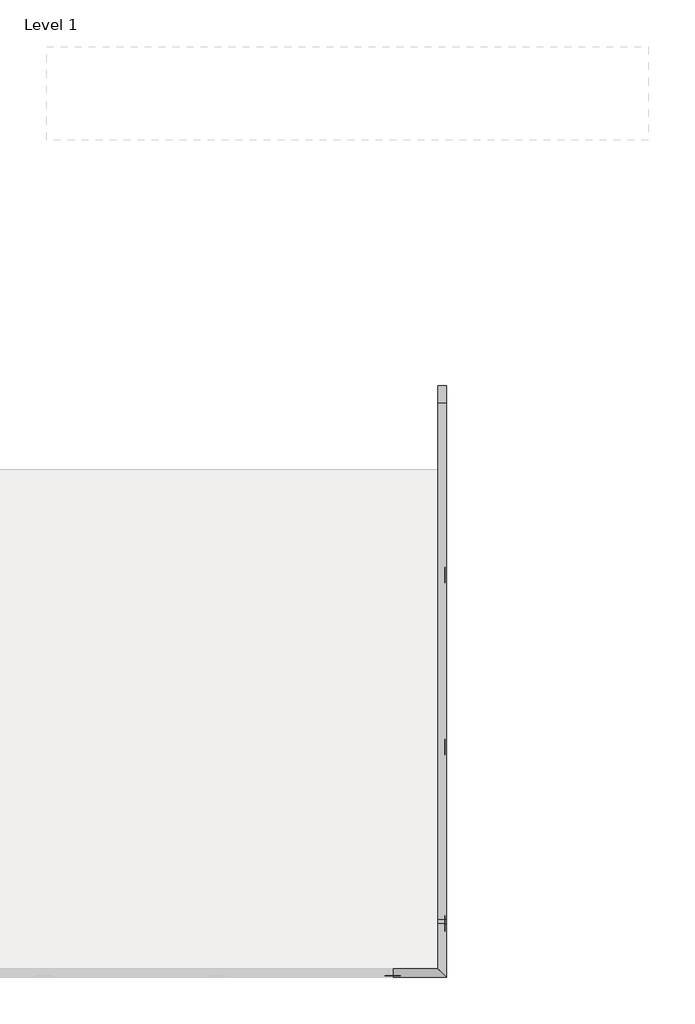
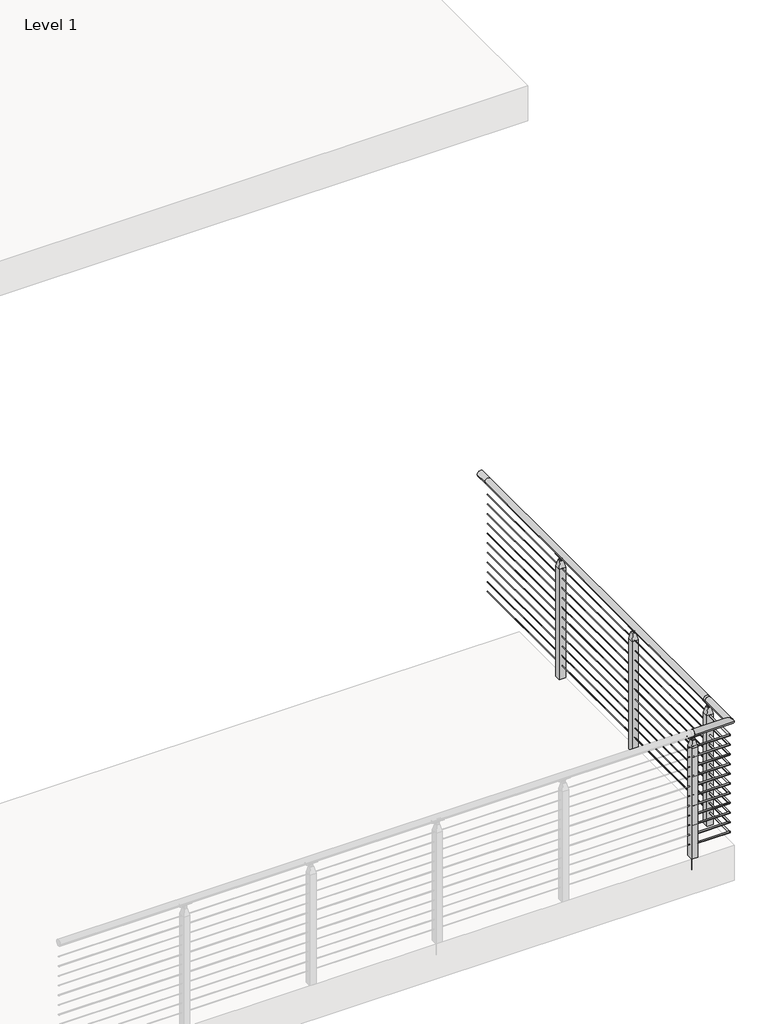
# One storey, part 12 of 26: 2 railings.
"""IFC4 building model written with IfcOpenShell, lengths in millimetres."""

from ifc_helpers import new_model, si_unit, point, frame, frame_2d, origin, place, context, project, spatial, polyline, circle_curve, ellipse_curve, trimmed, segment, composite_curve, outline, extrude, faceted_brep, element, save
from ifc_brep_helpers import plane_surface, cylinder_surface, advanced_brep

model = new_model("IFC4")

# Units and contexts
model_context = context("Model", 3, world=origin())
ifc_project = project(units=[si_unit("LENGTHUNIT", "METRE", prefix="MILLI")], contexts=[model_context])

# Site, building, storey
site = spatial("IfcSite", under=ifc_project)
building = spatial("IfcBuilding", under=site)
storey = spatial("IfcBuildingStorey", under=building, Name="Level 1", Elevation=0.0)

# Railings
placement = place(None, origin())
element("IfcRailing", 1, ObjectType="VIVA-CUBE-Cable-Weld Mount-Corner", at=placement, inside=storey, context=model_context, shape_type="SolidModel", body=[
    advanced_brep(
    [(45028.8886497, -57184.4334719, 1054.1), (45028.8886497, -57133.6334719, 1054.1), (45346.3886497, -57184.4334719, 1054.1), (45295.5886497, -57133.6334719, 1054.1), (45346.3886497, -56866.9334719, 1054.1), (45295.5886497, -56866.9334719, 1054.1)],
    [
        (0, 1, circle_curve(frame((45028.8886497, -57159.0334719, 1054.1), z_axis=(-1.0, 0.0, 0.0), x_axis=(0.0, 1.0, 0.0)), 25.4)),
        (1, 0, circle_curve(frame((45028.8886497, -57159.0334719, 1054.1), z_axis=(-1.0, 0.0, 0.0), x_axis=(0.0, 1.0, 0.0)), 25.4)),
        (0, 2),
        (2, 3, ellipse_curve(frame((45320.9886497, -57159.0334719, 1054.1), z_axis=(-0.7071067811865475, -0.7071067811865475, 0.0), x_axis=(-0.7071067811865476, 0.7071067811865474, 0.0)), 35.9210245, 25.4)),
        (3, 1),
        (3, 2, ellipse_curve(frame((45320.9886497, -57159.0334719, 1054.1), z_axis=(-0.7071067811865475, -0.7071067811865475, 0.0), x_axis=(-0.7071067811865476, 0.7071067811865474, 0.0)), 35.9210245, 25.4)),
        (4, 5, circle_curve(frame((45320.9886497, -56866.9334719, 1054.1), z_axis=(0.0, 1.0, 0.0), x_axis=(-1.0, 0.0, 0.0)), 25.4)),
        (5, 4, circle_curve(frame((45320.9886497, -56866.9334719, 1054.1), z_axis=(0.0, 1.0, 0.0), x_axis=(-1.0, 0.0, 0.0)), 25.4)),
        (2, 4),
        (5, 3),
    ],
    [
        plane_surface(frame((45028.8886497, -57159.0334719, 1079.5), z_axis=(-1.0, 0.0, 0.0), x_axis=(0.0, 1.0, 0.0))),
        cylinder_surface(frame((45028.8886497, -57159.0334719, 1054.1), z_axis=(-1.0, 0.0, 0.0), x_axis=(0.0, 1.0, 0.0)), 25.4),
        plane_surface(frame((45320.9886497, -56866.9334719, 1079.5), z_axis=(0.0, 1.0, 0.0), x_axis=(0.0, 0.0, 1.0))),
        cylinder_surface(frame((45320.9886497, -57159.0334719, 1054.1), z_axis=(0.0, -1.0, 0.0), x_axis=(-1.0, 0.0, 0.0)), 25.4),
    ],
    [
        (0, [[1, 2]]),
        (1, [[-1, 3, 4, 5]]),
        (1, [[-2, -5, 6, -3]]),
        (2, [[7, 8]]),
        (3, [[-4, 9, -8, 10]]),
        (3, [[-6, -10, -7, -9]]),
    ],
),
    advanced_brep(
    [(45028.8886497, -57152.6834719, 933.45), (45028.8886497, -57165.3834719, 933.45), (45314.6386497, -57152.6834719, 933.45), (45327.3386497, -57165.3834719, 933.45), (45314.6386497, -56866.9334719, 933.45), (45327.3386497, -56866.9334719, 933.45)],
    [
        (0, 1, circle_curve(frame((45028.8886497, -57159.0334719, 933.45), z_axis=(-1.0, 0.0, 0.0), x_axis=(0.0, -1.0, 0.0)), 6.35)),
        (1, 0, circle_curve(frame((45028.8886497, -57159.0334719, 933.45), z_axis=(-1.0, 0.0, 0.0), x_axis=(0.0, -1.0, 0.0)), 6.35)),
        (0, 2),
        (2, 3, ellipse_curve(frame((45320.9886497, -57159.0334719, 933.45), z_axis=(-0.7071067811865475, -0.7071067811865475, 0.0), x_axis=(-0.7071067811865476, 0.7071067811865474, 0.0)), 8.9802561, 6.35)),
        (3, 1),
        (3, 2, ellipse_curve(frame((45320.9886497, -57159.0334719, 933.45), z_axis=(-0.7071067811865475, -0.7071067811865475, 0.0), x_axis=(-0.7071067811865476, 0.7071067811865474, 0.0)), 8.9802561, 6.35)),
        (4, 5, circle_curve(frame((45320.9886497, -56866.9334719, 933.45), z_axis=(0.0, 1.0, 0.0), x_axis=(1.0, 0.0, 0.0)), 6.35)),
        (5, 4, circle_curve(frame((45320.9886497, -56866.9334719, 933.45), z_axis=(0.0, 1.0, 0.0), x_axis=(1.0, 0.0, 0.0)), 6.35)),
        (2, 4),
        (5, 3),
    ],
    [
        plane_surface(frame((45028.8886497, -57159.0334719, 939.8), z_axis=(-1.0, 0.0, 0.0), x_axis=(0.0, 1.0, 0.0))),
        cylinder_surface(frame((45028.8886497, -57159.0334719, 933.45), z_axis=(-1.0, 0.0, 0.0), x_axis=(0.0, -1.0, 0.0)), 6.35),
        plane_surface(frame((45320.9886497, -56866.9334719, 939.8), z_axis=(0.0, 1.0, 0.0), x_axis=(0.0, 0.0, 1.0))),
        cylinder_surface(frame((45320.9886497, -57159.0334719, 933.45), z_axis=(0.0, -1.0, 0.0), x_axis=(1.0, 0.0, 0.0)), 6.35),
    ],
    [
        (0, [[1, 2]]),
        (1, [[-1, 3, 4, 5]]),
        (1, [[-2, -5, 6, -3]]),
        (2, [[7, 8]]),
        (3, [[-4, 9, -8, 10]]),
        (3, [[-6, -10, -7, -9]]),
    ],
),
    advanced_brep(
    [(45028.8886497, -57152.6834719, 850.9), (45028.8886497, -57165.3834719, 850.9), (45314.6386497, -57152.6834719, 850.9), (45327.3386497, -57165.3834719, 850.9), (45314.6386497, -56866.9334719, 850.9), (45327.3386497, -56866.9334719, 850.9)],
    [
        (0, 1, circle_curve(frame((45028.8886497, -57159.0334719, 850.9), z_axis=(-1.0, 0.0, 0.0), x_axis=(0.0, -1.0, 0.0)), 6.35)),
        (1, 0, circle_curve(frame((45028.8886497, -57159.0334719, 850.9), z_axis=(-1.0, 0.0, 0.0), x_axis=(0.0, -1.0, 0.0)), 6.35)),
        (0, 2),
        (2, 3, ellipse_curve(frame((45320.9886497, -57159.0334719, 850.9), z_axis=(-0.7071067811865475, -0.7071067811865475, 0.0), x_axis=(-0.7071067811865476, 0.7071067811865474, 0.0)), 8.9802561, 6.35)),
        (3, 1),
        (3, 2, ellipse_curve(frame((45320.9886497, -57159.0334719, 850.9), z_axis=(-0.7071067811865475, -0.7071067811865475, 0.0), x_axis=(-0.7071067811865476, 0.7071067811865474, 0.0)), 8.9802561, 6.35)),
        (4, 5, circle_curve(frame((45320.9886497, -56866.9334719, 850.9), z_axis=(0.0, 1.0, 0.0), x_axis=(1.0, 0.0, 0.0)), 6.35)),
        (5, 4, circle_curve(frame((45320.9886497, -56866.9334719, 850.9), z_axis=(0.0, 1.0, 0.0), x_axis=(1.0, 0.0, 0.0)), 6.35)),
        (2, 4),
        (5, 3),
    ],
    [
        plane_surface(frame((45028.8886497, -57159.0334719, 857.25), z_axis=(-1.0, 0.0, 0.0), x_axis=(0.0, 1.0, 0.0))),
        cylinder_surface(frame((45028.8886497, -57159.0334719, 850.9), z_axis=(-1.0, 0.0, 0.0), x_axis=(0.0, -1.0, 0.0)), 6.35),
        plane_surface(frame((45320.9886497, -56866.9334719, 857.25), z_axis=(0.0, 1.0, 0.0), x_axis=(0.0, 0.0, 1.0))),
        cylinder_surface(frame((45320.9886497, -57159.0334719, 850.9), z_axis=(0.0, -1.0, 0.0), x_axis=(1.0, 0.0, 0.0)), 6.35),
    ],
    [
        (0, [[1, 2]]),
        (1, [[-1, 3, 4, 5]]),
        (1, [[-2, -5, 6, -3]]),
        (2, [[7, 8]]),
        (3, [[-4, 9, -8, 10]]),
        (3, [[-6, -10, -7, -9]]),
    ],
),
    advanced_brep(
    [(45028.8886497, -57152.6834719, 768.35), (45028.8886497, -57165.3834719, 768.35), (45314.6386497, -57152.6834719, 768.35), (45327.3386497, -57165.3834719, 768.35), (45314.6386497, -56866.9334719, 768.35), (45327.3386497, -56866.9334719, 768.35)],
    [
        (0, 1, circle_curve(frame((45028.8886497, -57159.0334719, 768.35), z_axis=(-1.0, 0.0, 0.0), x_axis=(0.0, -1.0, 0.0)), 6.35)),
        (1, 0, circle_curve(frame((45028.8886497, -57159.0334719, 768.35), z_axis=(-1.0, 0.0, 0.0), x_axis=(0.0, -1.0, 0.0)), 6.35)),
        (0, 2),
        (2, 3, ellipse_curve(frame((45320.9886497, -57159.0334719, 768.35), z_axis=(-0.7071067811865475, -0.7071067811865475, 0.0), x_axis=(-0.7071067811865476, 0.7071067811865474, 0.0)), 8.9802561, 6.35)),
        (3, 1),
        (3, 2, ellipse_curve(frame((45320.9886497, -57159.0334719, 768.35), z_axis=(-0.7071067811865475, -0.7071067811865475, 0.0), x_axis=(-0.7071067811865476, 0.7071067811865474, 0.0)), 8.9802561, 6.35)),
        (4, 5, circle_curve(frame((45320.9886497, -56866.9334719, 768.35), z_axis=(0.0, 1.0, 0.0), x_axis=(1.0, 0.0, 0.0)), 6.35)),
        (5, 4, circle_curve(frame((45320.9886497, -56866.9334719, 768.35), z_axis=(0.0, 1.0, 0.0), x_axis=(1.0, 0.0, 0.0)), 6.35)),
        (2, 4),
        (5, 3),
    ],
    [
        plane_surface(frame((45028.8886497, -57159.0334719, 774.7), z_axis=(-1.0, 0.0, 0.0), x_axis=(0.0, 1.0, 0.0))),
        cylinder_surface(frame((45028.8886497, -57159.0334719, 768.35), z_axis=(-1.0, 0.0, 0.0), x_axis=(0.0, -1.0, 0.0)), 6.35),
        plane_surface(frame((45320.9886497, -56866.9334719, 774.7), z_axis=(0.0, 1.0, 0.0), x_axis=(0.0, 0.0, 1.0))),
        cylinder_surface(frame((45320.9886497, -57159.0334719, 768.35), z_axis=(0.0, -1.0, 0.0), x_axis=(1.0, 0.0, 0.0)), 6.35),
    ],
    [
        (0, [[1, 2]]),
        (1, [[-1, 3, 4, 5]]),
        (1, [[-2, -5, 6, -3]]),
        (2, [[7, 8]]),
        (3, [[-4, 9, -8, 10]]),
        (3, [[-6, -10, -7, -9]]),
    ],
),
    advanced_brep(
    [(45028.8886497, -57152.6834719, 685.8), (45028.8886497, -57165.3834719, 685.8), (45314.6386497, -57152.6834719, 685.8), (45327.3386497, -57165.3834719, 685.8), (45314.6386497, -56866.9334719, 685.8), (45327.3386497, -56866.9334719, 685.8)],
    [
        (0, 1, circle_curve(frame((45028.8886497, -57159.0334719, 685.8), z_axis=(-1.0, 0.0, 0.0), x_axis=(0.0, -1.0, 0.0)), 6.35)),
        (1, 0, circle_curve(frame((45028.8886497, -57159.0334719, 685.8), z_axis=(-1.0, 0.0, 0.0), x_axis=(0.0, -1.0, 0.0)), 6.35)),
        (0, 2),
        (2, 3, ellipse_curve(frame((45320.9886497, -57159.0334719, 685.8), z_axis=(-0.7071067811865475, -0.7071067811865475, 0.0), x_axis=(-0.7071067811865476, 0.7071067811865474, 0.0)), 8.9802561, 6.35)),
        (3, 1),
        (3, 2, ellipse_curve(frame((45320.9886497, -57159.0334719, 685.8), z_axis=(-0.7071067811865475, -0.7071067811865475, 0.0), x_axis=(-0.7071067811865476, 0.7071067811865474, 0.0)), 8.9802561, 6.35)),
        (4, 5, circle_curve(frame((45320.9886497, -56866.9334719, 685.8), z_axis=(0.0, 1.0, 0.0), x_axis=(1.0, 0.0, 0.0)), 6.35)),
        (5, 4, circle_curve(frame((45320.9886497, -56866.9334719, 685.8), z_axis=(0.0, 1.0, 0.0), x_axis=(1.0, 0.0, 0.0)), 6.35)),
        (2, 4),
        (5, 3),
    ],
    [
        plane_surface(frame((45028.8886497, -57159.0334719, 692.15), z_axis=(-1.0, 0.0, 0.0), x_axis=(0.0, 1.0, 0.0))),
        cylinder_surface(frame((45028.8886497, -57159.0334719, 685.8), z_axis=(-1.0, 0.0, 0.0), x_axis=(0.0, -1.0, 0.0)), 6.35),
        plane_surface(frame((45320.9886497, -56866.9334719, 692.15), z_axis=(0.0, 1.0, 0.0), x_axis=(0.0, 0.0, 1.0))),
        cylinder_surface(frame((45320.9886497, -57159.0334719, 685.8), z_axis=(0.0, -1.0, 0.0), x_axis=(1.0, 0.0, 0.0)), 6.35),
    ],
    [
        (0, [[1, 2]]),
        (1, [[-1, 3, 4, 5]]),
        (1, [[-2, -5, 6, -3]]),
        (2, [[7, 8]]),
        (3, [[-4, 9, -8, 10]]),
        (3, [[-6, -10, -7, -9]]),
    ],
),
    advanced_brep(
    [(45028.8886497, -57152.6834719, 603.25), (45028.8886497, -57165.3834719, 603.25), (45314.6386497, -57152.6834719, 603.25), (45327.3386497, -57165.3834719, 603.25), (45314.6386497, -56866.9334719, 603.25), (45327.3386497, -56866.9334719, 603.25)],
    [
        (0, 1, circle_curve(frame((45028.8886497, -57159.0334719, 603.25), z_axis=(-1.0, 0.0, 0.0), x_axis=(0.0, -1.0, 0.0)), 6.35)),
        (1, 0, circle_curve(frame((45028.8886497, -57159.0334719, 603.25), z_axis=(-1.0, 0.0, 0.0), x_axis=(0.0, -1.0, 0.0)), 6.35)),
        (0, 2),
        (2, 3, ellipse_curve(frame((45320.9886497, -57159.0334719, 603.25), z_axis=(-0.7071067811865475, -0.7071067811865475, 0.0), x_axis=(-0.7071067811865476, 0.7071067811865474, 0.0)), 8.9802561, 6.35)),
        (3, 1),
        (3, 2, ellipse_curve(frame((45320.9886497, -57159.0334719, 603.25), z_axis=(-0.7071067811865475, -0.7071067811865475, 0.0), x_axis=(-0.7071067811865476, 0.7071067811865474, 0.0)), 8.9802561, 6.35)),
        (4, 5, circle_curve(frame((45320.9886497, -56866.9334719, 603.25), z_axis=(0.0, 1.0, 0.0), x_axis=(1.0, 0.0, 0.0)), 6.35)),
        (5, 4, circle_curve(frame((45320.9886497, -56866.9334719, 603.25), z_axis=(0.0, 1.0, 0.0), x_axis=(1.0, 0.0, 0.0)), 6.35)),
        (2, 4),
        (5, 3),
    ],
    [
        plane_surface(frame((45028.8886497, -57159.0334719, 609.6), z_axis=(-1.0, 0.0, 0.0), x_axis=(0.0, 1.0, 0.0))),
        cylinder_surface(frame((45028.8886497, -57159.0334719, 603.25), z_axis=(-1.0, 0.0, 0.0), x_axis=(0.0, -1.0, 0.0)), 6.35),
        plane_surface(frame((45320.9886497, -56866.9334719, 609.6), z_axis=(0.0, 1.0, 0.0), x_axis=(0.0, 0.0, 1.0))),
        cylinder_surface(frame((45320.9886497, -57159.0334719, 603.25), z_axis=(0.0, -1.0, 0.0), x_axis=(1.0, 0.0, 0.0)), 6.35),
    ],
    [
        (0, [[1, 2]]),
        (1, [[-1, 3, 4, 5]]),
        (1, [[-2, -5, 6, -3]]),
        (2, [[7, 8]]),
        (3, [[-4, 9, -8, 10]]),
        (3, [[-6, -10, -7, -9]]),
    ],
),
    advanced_brep(
    [(45028.8886497, -57152.6834719, 520.7), (45028.8886497, -57165.3834719, 520.7), (45314.6386497, -57152.6834719, 520.7), (45327.3386497, -57165.3834719, 520.7), (45314.6386497, -56866.9334719, 520.7), (45327.3386497, -56866.9334719, 520.7)],
    [
        (0, 1, circle_curve(frame((45028.8886497, -57159.0334719, 520.7), z_axis=(-1.0, 0.0, 0.0), x_axis=(0.0, -1.0, 0.0)), 6.35)),
        (1, 0, circle_curve(frame((45028.8886497, -57159.0334719, 520.7), z_axis=(-1.0, 0.0, 0.0), x_axis=(0.0, -1.0, 0.0)), 6.35)),
        (0, 2),
        (2, 3, ellipse_curve(frame((45320.9886497, -57159.0334719, 520.7), z_axis=(-0.7071067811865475, -0.7071067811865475, 0.0), x_axis=(-0.7071067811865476, 0.7071067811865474, 0.0)), 8.9802561, 6.35)),
        (3, 1),
        (3, 2, ellipse_curve(frame((45320.9886497, -57159.0334719, 520.7), z_axis=(-0.7071067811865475, -0.7071067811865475, 0.0), x_axis=(-0.7071067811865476, 0.7071067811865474, 0.0)), 8.9802561, 6.35)),
        (4, 5, circle_curve(frame((45320.9886497, -56866.9334719, 520.7), z_axis=(0.0, 1.0, 0.0), x_axis=(1.0, 0.0, 0.0)), 6.35)),
        (5, 4, circle_curve(frame((45320.9886497, -56866.9334719, 520.7), z_axis=(0.0, 1.0, 0.0), x_axis=(1.0, 0.0, 0.0)), 6.35)),
        (2, 4),
        (5, 3),
    ],
    [
        plane_surface(frame((45028.8886497, -57159.0334719, 527.05), z_axis=(-1.0, 0.0, 0.0), x_axis=(0.0, 1.0, 0.0))),
        cylinder_surface(frame((45028.8886497, -57159.0334719, 520.7), z_axis=(-1.0, 0.0, 0.0), x_axis=(0.0, -1.0, 0.0)), 6.35),
        plane_surface(frame((45320.9886497, -56866.9334719, 527.05), z_axis=(0.0, 1.0, 0.0), x_axis=(0.0, 0.0, 1.0))),
        cylinder_surface(frame((45320.9886497, -57159.0334719, 520.7), z_axis=(0.0, -1.0, 0.0), x_axis=(1.0, 0.0, 0.0)), 6.35),
    ],
    [
        (0, [[1, 2]]),
        (1, [[-1, 3, 4, 5]]),
        (1, [[-2, -5, 6, -3]]),
        (2, [[7, 8]]),
        (3, [[-4, 9, -8, 10]]),
        (3, [[-6, -10, -7, -9]]),
    ],
),
    advanced_brep(
    [(45028.8886497, -57152.6834719, 438.15), (45028.8886497, -57165.3834719, 438.15), (45314.6386497, -57152.6834719, 438.15), (45327.3386497, -57165.3834719, 438.15), (45314.6386497, -56866.9334719, 438.15), (45327.3386497, -56866.9334719, 438.15)],
    [
        (0, 1, circle_curve(frame((45028.8886497, -57159.0334719, 438.15), z_axis=(-1.0, 0.0, 0.0), x_axis=(0.0, -1.0, 0.0)), 6.35)),
        (1, 0, circle_curve(frame((45028.8886497, -57159.0334719, 438.15), z_axis=(-1.0, 0.0, 0.0), x_axis=(0.0, -1.0, 0.0)), 6.35)),
        (0, 2),
        (2, 3, ellipse_curve(frame((45320.9886497, -57159.0334719, 438.15), z_axis=(-0.7071067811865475, -0.7071067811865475, 0.0), x_axis=(-0.7071067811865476, 0.7071067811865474, 0.0)), 8.9802561, 6.35)),
        (3, 1),
        (3, 2, ellipse_curve(frame((45320.9886497, -57159.0334719, 438.15), z_axis=(-0.7071067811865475, -0.7071067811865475, 0.0), x_axis=(-0.7071067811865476, 0.7071067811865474, 0.0)), 8.9802561, 6.35)),
        (4, 5, circle_curve(frame((45320.9886497, -56866.9334719, 438.15), z_axis=(0.0, 1.0, 0.0), x_axis=(1.0, 0.0, 0.0)), 6.35)),
        (5, 4, circle_curve(frame((45320.9886497, -56866.9334719, 438.15), z_axis=(0.0, 1.0, 0.0), x_axis=(1.0, 0.0, 0.0)), 6.35)),
        (2, 4),
        (5, 3),
    ],
    [
        plane_surface(frame((45028.8886497, -57159.0334719, 444.5), z_axis=(-1.0, 0.0, 0.0), x_axis=(0.0, 1.0, 0.0))),
        cylinder_surface(frame((45028.8886497, -57159.0334719, 438.15), z_axis=(-1.0, 0.0, 0.0), x_axis=(0.0, -1.0, 0.0)), 6.35),
        plane_surface(frame((45320.9886497, -56866.9334719, 444.5), z_axis=(0.0, 1.0, 0.0), x_axis=(0.0, 0.0, 1.0))),
        cylinder_surface(frame((45320.9886497, -57159.0334719, 438.15), z_axis=(0.0, -1.0, 0.0), x_axis=(1.0, 0.0, 0.0)), 6.35),
    ],
    [
        (0, [[1, 2]]),
        (1, [[-1, 3, 4, 5]]),
        (1, [[-2, -5, 6, -3]]),
        (2, [[7, 8]]),
        (3, [[-4, 9, -8, 10]]),
        (3, [[-6, -10, -7, -9]]),
    ],
),
    advanced_brep(
    [(45028.8886497, -57152.6834719, 355.6), (45028.8886497, -57165.3834719, 355.6), (45314.6386497, -57152.6834719, 355.6), (45327.3386497, -57165.3834719, 355.6), (45314.6386497, -56866.9334719, 355.6), (45327.3386497, -56866.9334719, 355.6)],
    [
        (0, 1, circle_curve(frame((45028.8886497, -57159.0334719, 355.6), z_axis=(-1.0, 0.0, 0.0), x_axis=(0.0, -1.0, 0.0)), 6.35)),
        (1, 0, circle_curve(frame((45028.8886497, -57159.0334719, 355.6), z_axis=(-1.0, 0.0, 0.0), x_axis=(0.0, -1.0, 0.0)), 6.35)),
        (0, 2),
        (2, 3, ellipse_curve(frame((45320.9886497, -57159.0334719, 355.6), z_axis=(-0.7071067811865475, -0.7071067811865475, 0.0), x_axis=(-0.7071067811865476, 0.7071067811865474, 0.0)), 8.9802561, 6.35)),
        (3, 1),
        (3, 2, ellipse_curve(frame((45320.9886497, -57159.0334719, 355.6), z_axis=(-0.7071067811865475, -0.7071067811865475, 0.0), x_axis=(-0.7071067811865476, 0.7071067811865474, 0.0)), 8.9802561, 6.35)),
        (4, 5, circle_curve(frame((45320.9886497, -56866.9334719, 355.6), z_axis=(0.0, 1.0, 0.0), x_axis=(1.0, 0.0, 0.0)), 6.35)),
        (5, 4, circle_curve(frame((45320.9886497, -56866.9334719, 355.6), z_axis=(0.0, 1.0, 0.0), x_axis=(1.0, 0.0, 0.0)), 6.35)),
        (2, 4),
        (5, 3),
    ],
    [
        plane_surface(frame((45028.8886497, -57159.0334719, 361.95), z_axis=(-1.0, 0.0, 0.0), x_axis=(0.0, 1.0, 0.0))),
        cylinder_surface(frame((45028.8886497, -57159.0334719, 355.6), z_axis=(-1.0, 0.0, 0.0), x_axis=(0.0, -1.0, 0.0)), 6.35),
        plane_surface(frame((45320.9886497, -56866.9334719, 361.95), z_axis=(0.0, 1.0, 0.0), x_axis=(0.0, 0.0, 1.0))),
        cylinder_surface(frame((45320.9886497, -57159.0334719, 355.6), z_axis=(0.0, -1.0, 0.0), x_axis=(1.0, 0.0, 0.0)), 6.35),
    ],
    [
        (0, [[1, 2]]),
        (1, [[-1, 3, 4, 5]]),
        (1, [[-2, -5, 6, -3]]),
        (2, [[7, 8]]),
        (3, [[-4, 9, -8, 10]]),
        (3, [[-6, -10, -7, -9]]),
    ],
),
    advanced_brep(
    [(45028.8886497, -57152.6834719, 273.05), (45028.8886497, -57165.3834719, 273.05), (45314.6386497, -57152.6834719, 273.05), (45327.3386497, -57165.3834719, 273.05), (45314.6386497, -56866.9334719, 273.05), (45327.3386497, -56866.9334719, 273.05)],
    [
        (0, 1, circle_curve(frame((45028.8886497, -57159.0334719, 273.05), z_axis=(-1.0, 0.0, 0.0), x_axis=(0.0, -1.0, 0.0)), 6.35)),
        (1, 0, circle_curve(frame((45028.8886497, -57159.0334719, 273.05), z_axis=(-1.0, 0.0, 0.0), x_axis=(0.0, -1.0, 0.0)), 6.35)),
        (0, 2),
        (2, 3, ellipse_curve(frame((45320.9886497, -57159.0334719, 273.05), z_axis=(-0.7071067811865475, -0.7071067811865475, 0.0), x_axis=(-0.7071067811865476, 0.7071067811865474, 0.0)), 8.9802561, 6.35)),
        (3, 1),
        (3, 2, ellipse_curve(frame((45320.9886497, -57159.0334719, 273.05), z_axis=(-0.7071067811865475, -0.7071067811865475, 0.0), x_axis=(-0.7071067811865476, 0.7071067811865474, 0.0)), 8.9802561, 6.35)),
        (4, 5, circle_curve(frame((45320.9886497, -56866.9334719, 273.05), z_axis=(0.0, 1.0, 0.0), x_axis=(1.0, 0.0, 0.0)), 6.35)),
        (5, 4, circle_curve(frame((45320.9886497, -56866.9334719, 273.05), z_axis=(0.0, 1.0, 0.0), x_axis=(1.0, 0.0, 0.0)), 6.35)),
        (2, 4),
        (5, 3),
    ],
    [
        plane_surface(frame((45028.8886497, -57159.0334719, 279.4), z_axis=(-1.0, 0.0, 0.0), x_axis=(0.0, 1.0, 0.0))),
        cylinder_surface(frame((45028.8886497, -57159.0334719, 273.05), z_axis=(-1.0, 0.0, 0.0), x_axis=(0.0, -1.0, 0.0)), 6.35),
        plane_surface(frame((45320.9886497, -56866.9334719, 279.4), z_axis=(0.0, 1.0, 0.0), x_axis=(0.0, 0.0, 1.0))),
        cylinder_surface(frame((45320.9886497, -57159.0334719, 273.05), z_axis=(0.0, -1.0, 0.0), x_axis=(1.0, 0.0, 0.0)), 6.35),
    ],
    [
        (0, [[1, 2]]),
        (1, [[-1, 3, 4, 5]]),
        (1, [[-2, -5, 6, -3]]),
        (2, [[7, 8]]),
        (3, [[-4, 9, -8, 10]]),
        (3, [[-6, -10, -7, -9]]),
    ],
),
    advanced_brep(
    [(45028.8886497, -57152.6834719, 190.5), (45028.8886497, -57165.3834719, 190.5), (45314.6386497, -57152.6834719, 190.5), (45327.3386497, -57165.3834719, 190.5), (45314.6386497, -56866.9334719, 190.5), (45327.3386497, -56866.9334719, 190.5)],
    [
        (0, 1, circle_curve(frame((45028.8886497, -57159.0334719, 190.5), z_axis=(-1.0, 0.0, 0.0), x_axis=(0.0, -1.0, 0.0)), 6.35)),
        (1, 0, circle_curve(frame((45028.8886497, -57159.0334719, 190.5), z_axis=(-1.0, 0.0, 0.0), x_axis=(0.0, -1.0, 0.0)), 6.35)),
        (0, 2),
        (2, 3, ellipse_curve(frame((45320.9886497, -57159.0334719, 190.5), z_axis=(-0.7071067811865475, -0.7071067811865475, 0.0), x_axis=(-0.7071067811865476, 0.7071067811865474, 0.0)), 8.9802561, 6.35)),
        (3, 1),
        (3, 2, ellipse_curve(frame((45320.9886497, -57159.0334719, 190.5), z_axis=(-0.7071067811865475, -0.7071067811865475, 0.0), x_axis=(-0.7071067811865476, 0.7071067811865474, 0.0)), 8.9802561, 6.35)),
        (4, 5, circle_curve(frame((45320.9886497, -56866.9334719, 190.5), z_axis=(0.0, 1.0, 0.0), x_axis=(1.0, 0.0, 0.0)), 6.35)),
        (5, 4, circle_curve(frame((45320.9886497, -56866.9334719, 190.5), z_axis=(0.0, 1.0, 0.0), x_axis=(1.0, 0.0, 0.0)), 6.35)),
        (2, 4),
        (5, 3),
    ],
    [
        plane_surface(frame((45028.8886497, -57159.0334719, 196.85), z_axis=(-1.0, 0.0, 0.0), x_axis=(0.0, 1.0, 0.0))),
        cylinder_surface(frame((45028.8886497, -57159.0334719, 190.5), z_axis=(-1.0, 0.0, 0.0), x_axis=(0.0, -1.0, 0.0)), 6.35),
        plane_surface(frame((45320.9886497, -56866.9334719, 196.85), z_axis=(0.0, 1.0, 0.0), x_axis=(0.0, 0.0, 1.0))),
        cylinder_surface(frame((45320.9886497, -57159.0334719, 190.5), z_axis=(0.0, -1.0, 0.0), x_axis=(1.0, 0.0, 0.0)), 6.35),
    ],
    [
        (0, [[1, 2]]),
        (1, [[-1, 3, 4, 5]]),
        (1, [[-2, -5, 6, -3]]),
        (2, [[7, 8]]),
        (3, [[-4, 9, -8, 10]]),
        (3, [[-6, -10, -7, -9]]),
    ],
),
    advanced_brep(
    [(45028.8886497, -57152.6834719, 107.95), (45028.8886497, -57165.3834719, 107.95), (45314.6386497, -57152.6834719, 107.95), (45327.3386497, -57165.3834719, 107.95), (45314.6386497, -56866.9334719, 107.95), (45327.3386497, -56866.9334719, 107.95)],
    [
        (0, 1, circle_curve(frame((45028.8886497, -57159.0334719, 107.95), z_axis=(-1.0, 0.0, 0.0), x_axis=(0.0, -1.0, 0.0)), 6.35)),
        (1, 0, circle_curve(frame((45028.8886497, -57159.0334719, 107.95), z_axis=(-1.0, 0.0, 0.0), x_axis=(0.0, -1.0, 0.0)), 6.35)),
        (0, 2),
        (2, 3, ellipse_curve(frame((45320.9886497, -57159.0334719, 107.95), z_axis=(-0.7071067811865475, -0.7071067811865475, 0.0), x_axis=(-0.7071067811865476, 0.7071067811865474, 0.0)), 8.9802561, 6.35)),
        (3, 1),
        (3, 2, ellipse_curve(frame((45320.9886497, -57159.0334719, 107.95), z_axis=(-0.7071067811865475, -0.7071067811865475, 0.0), x_axis=(-0.7071067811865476, 0.7071067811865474, 0.0)), 8.9802561, 6.35)),
        (4, 5, circle_curve(frame((45320.9886497, -56866.9334719, 107.95), z_axis=(0.0, 1.0, 0.0), x_axis=(1.0, 0.0, 0.0)), 6.35)),
        (5, 4, circle_curve(frame((45320.9886497, -56866.9334719, 107.95), z_axis=(0.0, 1.0, 0.0), x_axis=(1.0, 0.0, 0.0)), 6.35)),
        (2, 4),
        (5, 3),
    ],
    [
        plane_surface(frame((45028.8886497, -57159.0334719, 114.3), z_axis=(-1.0, 0.0, 0.0), x_axis=(0.0, 1.0, 0.0))),
        cylinder_surface(frame((45028.8886497, -57159.0334719, 107.95), z_axis=(-1.0, 0.0, 0.0), x_axis=(0.0, -1.0, 0.0)), 6.35),
        plane_surface(frame((45320.9886497, -56866.9334719, 114.3), z_axis=(0.0, 1.0, 0.0), x_axis=(0.0, 0.0, 1.0))),
        cylinder_surface(frame((45320.9886497, -57159.0334719, 107.95), z_axis=(0.0, -1.0, 0.0), x_axis=(1.0, 0.0, 0.0)), 6.35),
    ],
    [
        (0, [[1, 2]]),
        (1, [[-1, 3, 4, 5]]),
        (1, [[-2, -5, 6, -3]]),
        (2, [[7, 8]]),
        (3, [[-4, 9, -8, 10]]),
        (3, [[-6, -10, -7, -9]]),
    ],
),
    faceted_brep([(45308.2886497, -56853.8365969, 997.2902749), (45308.2886497, -56879.2365969, 997.2902749), (45317.0198997, -56879.2365969, 997.2902749), (45317.0198997, -56853.8365969, 997.2902749), (45333.6886497, -56879.2365969, 997.2902749), (45333.6886497, -56853.8365969, 997.2902749), (45324.9573997, -56853.8365969, 997.2902749), (45324.9573997, -56879.2365969, 997.2902749), (45295.5886497, -56841.1365969, 941.1347854), (45346.3886497, -56841.1365969, 941.1347854), (45295.5886497, -56891.9365969, 941.1347854), (45346.3886497, -56891.9365969, 941.1347854), (45295.5886497, -56841.1365969, -88.9), (45346.3886497, -56841.1365969, -88.9), (45346.3886497, -56891.9365969, -88.9), (45295.5886497, -56891.9365969, -88.9), (45324.9573997, -56879.2365969, 1009.3306013), (45324.9573997, -56853.8365969, 1009.3306013), (45317.0198997, -56853.8365969, 1009.3306013), (45317.0198997, -56879.2365969, 1009.3306013)], [[[0, 1, 2, 3]], [[4, 5, 6, 7]], [[8, 0, 3, 6, 5, 9]], [[1, 0, 8, 10]], [[1, 10, 11, 4, 7, 2]], [[5, 4, 11, 9]], [[12, 13, 14, 15]], [[12, 15, 10, 8]], [[15, 14, 11, 10]], [[14, 13, 9, 11]], [[13, 12, 8, 9]], [[16, 17, 18, 19]], [[17, 16, 7, 6]], [[18, 17, 6, 3]], [[19, 18, 3, 2]], [[16, 19, 2, 7]]]),
    extrude(outline(composite_curve([segment(trimmed(circle_curve(frame_2d((1054.1433184, 45320.8919213)), 25.4345159), [point((1032.0284941, 45333.4557242))], [point((1031.9335733, 45308.4966876))], True, "CARTESIAN"), True, "CONTINUOUS"), segment(trimmed(circle_curve(frame_2d((1029.4310885, 45307.2520344)), 2.7949225), [point((1031.9335733, 45308.4966876))], [point((1027.0585031, 45305.7747294))], False, "CARTESIAN"), True, "CONTINUOUS"), segment(trimmed(circle_curve(frame_2d((1054.905945, 45321.0253844)), 31.75), [point((1027.0585031, 45305.7747294))], [point((1027.6392616, 45337.2916216))], False, "CARTESIAN"), True, "CONTINUOUS"), segment(trimmed(circle_curve(frame_2d((1029.5101807, 45335.0032819)), 2.9558141), [point((1027.6392616, 45337.2916216))], [point((1032.0284941, 45333.4557242))], False, "CARTESIAN"), True, "CONTINUOUS")], self_intersect=False)), frame((0.0, -56911.7739969, 0.0), z_axis=(0.0, 1.0, 0.0), x_axis=(0.0, 0.0, 1.0)), (0.0, 0.0, 1.0), 90.4748),
    extrude(outline(composite_curve([segment(trimmed(circle_curve(frame_2d((-56839.468682, 1009.0006022)), 14.3679149), [point((-56839.468682, 1023.3685171))], [point((-56853.8365969, 1009.0006022))], True, "CARTESIAN"), True, "CONTINUOUS"), segment(trimmed(circle_curve(frame_2d((-56866.5365969, 1009.0006022)), 12.7), [point((-56853.8365969, 1009.0006022))], [point((-56879.2365969, 1009.0006022))], False, "CARTESIAN"), True, "CONTINUOUS"), segment(trimmed(circle_curve(frame_2d((-56893.6045117, 1009.0006022)), 14.3679149), [point((-56879.2365969, 1009.0006022))], [point((-56893.6045117, 1023.3685171))], True, "CARTESIAN"), True, "CONTINUOUS"), segment(polyline([(-56893.6045117, 1023.3685171), (-56839.468682, 1023.3685171)]), True, "CONTINUOUS")], self_intersect=False)), frame((45318.4486497, 0.0, 0.0), z_axis=(1.0, 0.0, 0.0), x_axis=(0.0, 1.0, 0.0)), (0.0, 0.0, 1.0), 5.08),
    faceted_brep([(45041.9855247, -57146.3334719, 997.2902749), (45016.5855247, -57146.3334719, 997.2902749), (45016.5855247, -57155.0647219, 997.2902749), (45041.9855247, -57155.0647219, 997.2902749), (45016.5855247, -57171.7334719, 997.2902749), (45041.9855247, -57171.7334719, 997.2902749), (45041.9855247, -57163.0022219, 997.2902749), (45016.5855247, -57163.0022219, 997.2902749), (45054.6855247, -57133.6334719, 941.1347854), (45054.6855247, -57184.4334719, 941.1347854), (45003.8855247, -57133.6334719, 941.1347854), (45003.8855247, -57184.4334719, 941.1347854), (45054.6855247, -57133.6334719, -88.9), (45054.6855247, -57184.4334719, -88.9), (45003.8855247, -57184.4334719, -88.9), (45003.8855247, -57133.6334719, -88.9), (45016.5855247, -57163.0022219, 1009.3306013), (45041.9855247, -57163.0022219, 1009.3306013), (45041.9855247, -57155.0647219, 1009.3306013), (45016.5855247, -57155.0647219, 1009.3306013)], [[[0, 1, 2, 3]], [[4, 5, 6, 7]], [[8, 0, 3, 6, 5, 9]], [[1, 0, 8, 10]], [[1, 10, 11, 4, 7, 2]], [[5, 4, 11, 9]], [[12, 13, 14, 15]], [[12, 15, 10, 8]], [[15, 14, 11, 10]], [[14, 13, 9, 11]], [[13, 12, 8, 9]], [[16, 17, 18, 19]], [[17, 16, 7, 6]], [[18, 17, 6, 3]], [[19, 18, 3, 2]], [[16, 19, 2, 7]]]),
    extrude(outline(composite_curve([segment(trimmed(circle_curve(frame_2d((-57158.9367435, 1054.1433184)), 25.4345159), [point((-57171.5005464, 1032.0284941))], [point((-57146.5415097, 1031.9335733))], True, "CARTESIAN"), True, "CONTINUOUS"), segment(trimmed(circle_curve(frame_2d((-57145.2968566, 1029.4310885)), 2.7949225), [point((-57146.5415097, 1031.9335733))], [point((-57143.8195515, 1027.0585031))], False, "CARTESIAN"), True, "CONTINUOUS"), segment(trimmed(circle_curve(frame_2d((-57159.0702066, 1054.905945)), 31.75), [point((-57143.8195515, 1027.0585031))], [point((-57175.3364438, 1027.6392616))], False, "CARTESIAN"), True, "CONTINUOUS"), segment(trimmed(circle_curve(frame_2d((-57173.048104, 1029.5101807)), 2.9558141), [point((-57175.3364438, 1027.6392616))], [point((-57171.5005464, 1032.0284941))], False, "CARTESIAN"), True, "CONTINUOUS")], self_intersect=False)), frame((44984.0481247, 0.0, 0.0), z_axis=(1.0, 0.0, 0.0), x_axis=(0.0, 1.0, 0.0)), (0.0, 0.0, 1.0), 90.4748),
    extrude(outline(composite_curve([segment(polyline([(1023.3685171, 45056.3534396), (1023.3685171, 45002.2176098)]), True, "CONTINUOUS"), segment(trimmed(circle_curve(frame_2d((1009.0006022, 45002.2176098)), 14.3679149), [point((1023.3685171, 45002.2176098))], [point((1009.0006022, 45016.5855247))], True, "CARTESIAN"), True, "CONTINUOUS"), segment(trimmed(circle_curve(frame_2d((1009.0006022, 45029.2855247)), 12.7), [point((1009.0006022, 45016.5855247))], [point((1009.0006022, 45041.9855247))], False, "CARTESIAN"), True, "CONTINUOUS"), segment(trimmed(circle_curve(frame_2d((1009.0006022, 45056.3534396)), 14.3679149), [point((1009.0006022, 45041.9855247))], [point((1023.3685171, 45056.3534396))], True, "CARTESIAN"), True, "CONTINUOUS")], self_intersect=False)), frame((0.0, -57161.5734719, 0.0), z_axis=(0.0, 1.0, 0.0), x_axis=(0.0, 0.0, 1.0)), (0.0, 0.0, 1.0), 5.08),
])
element("IfcRailing", 2, ObjectType="VIVA-CUBE-Cable-Weld Mount-Straight", at=placement, inside=storey, context=model_context, shape_type="SolidModel", body=[
    advanced_brep(
    [(45346.5410497, -53691.5365969, 1054.1), (45295.7410497, -53691.5365969, 1054.1), (45295.7410497, -53793.1365969, 1054.1), (45346.5410497, -53793.1365969, 1054.1), (45295.7410497, -56841.1365969, 1054.1), (45346.5410497, -56841.1365969, 1054.1), (45346.5410497, -56866.9334719, 1054.1), (45295.7410497, -56866.9334719, 1054.1)],
    [
        (0, 1, circle_curve(frame((45321.1410497, -53691.5365969, 1054.1), z_axis=(0.0, 1.0, 0.0), x_axis=(-1.0, 0.0, 0.0)), 25.4)),
        (1, 0, circle_curve(frame((45321.1410497, -53691.5365969, 1054.1), z_axis=(0.0, 1.0, 0.0), x_axis=(-1.0, 0.0, 0.0)), 25.4)),
        (2, 3, circle_curve(frame((45321.1410497, -53793.1365969, 1054.1), z_axis=(0.0, 1.0, 0.0), x_axis=(-1.0, 0.0, 0.0)), 25.4)),
        (3, 0),
        (1, 2),
        (3, 2, circle_curve(frame((45321.1410497, -53793.1365969, 1054.1), z_axis=(0.0, 1.0, 0.0), x_axis=(-1.0, 0.0, 0.0)), 25.4)),
        (4, 5, circle_curve(frame((45321.1410497, -56841.1365969, 1054.1), z_axis=(0.0, 1.0, 0.0), x_axis=(-1.0, 0.0, 0.0)), 25.4)),
        (5, 3),
        (2, 4),
        (5, 4, circle_curve(frame((45321.1410497, -56841.1365969, 1054.1), z_axis=(0.0, 1.0, 0.0), x_axis=(-1.0, 0.0, 0.0)), 25.4)),
        (6, 7, circle_curve(frame((45321.1410497, -56866.9334719, 1054.1), z_axis=(0.0, -1.0, 0.0), x_axis=(-1.0, 0.0, 0.0)), 25.4)),
        (7, 6, circle_curve(frame((45321.1410497, -56866.9334719, 1054.1), z_axis=(0.0, -1.0, 0.0), x_axis=(-1.0, 0.0, 0.0)), 25.4)),
        (6, 5),
        (4, 7),
    ],
    [
        plane_surface(frame((45321.1410497, -53691.5365969, 1079.5), z_axis=(0.0, 1.0, 0.0), x_axis=(0.0, 0.0, 1.0))),
        cylinder_surface(frame((45321.1410497, -53793.1365969, 1054.1), z_axis=(0.0, -1.0, 0.0), x_axis=(-1.0, 0.0, 0.0)), 25.4),
        cylinder_surface(frame((45321.1410497, -56841.1365969, 1054.1), z_axis=(0.0, -1.0, 0.0), x_axis=(-1.0, 0.0, 0.0)), 25.4),
        plane_surface(frame((45321.1410497, -56866.9334719, 1079.5), z_axis=(0.0, -1.0, 0.0), x_axis=(0.0, 0.0, 1.0))),
        cylinder_surface(frame((45321.1410497, -56866.9334719, 1054.1), z_axis=(0.0, -1.0, 0.0), x_axis=(-1.0, 0.0, 0.0)), 25.4),
    ],
    [
        (0, [[1, 2]]),
        (1, [[3, 4, -2, 5]]),
        (1, [[6, -5, -1, -4]]),
        (2, [[7, 8, -3, 9]]),
        (2, [[10, -9, -6, -8]]),
        (3, [[11, 12]]),
        (4, [[-11, 13, -7, 14]]),
        (4, [[-12, -14, -10, -13]]),
    ],
),
    extrude(outline(composite_curve([segment(trimmed(circle_curve(frame_2d((937.4124, 45321.1410497)), 2.3876), [point((937.4124, 45318.7534497))], [point((937.4124, 45323.5286497))], False, "CARTESIAN"), True, "CONTINUOUS"), segment(trimmed(circle_curve(frame_2d((937.4124, 45321.1410497)), 2.3876), [point((937.4124, 45323.5286497))], [point((937.4124, 45318.7534497))], False, "CARTESIAN"), True, "CONTINUOUS")], self_intersect=False)), frame((0.0, -56841.1365969, 0.0), z_axis=(0.0, 1.0, 0.0), x_axis=(0.0, 0.0, 1.0)), (0.0, 0.0, 1.0), 3048.0),
    extrude(outline(composite_curve([segment(trimmed(circle_curve(frame_2d((854.8624, 45321.1410497)), 2.3876), [point((854.8624, 45318.7534497))], [point((854.8624, 45323.5286497))], False, "CARTESIAN"), True, "CONTINUOUS"), segment(trimmed(circle_curve(frame_2d((854.8624, 45321.1410497)), 2.3876), [point((854.8624, 45323.5286497))], [point((854.8624, 45318.7534497))], False, "CARTESIAN"), True, "CONTINUOUS")], self_intersect=False)), frame((0.0, -56841.1365969, 0.0), z_axis=(0.0, 1.0, 0.0), x_axis=(0.0, 0.0, 1.0)), (0.0, 0.0, 1.0), 3048.0),
    extrude(outline(composite_curve([segment(trimmed(circle_curve(frame_2d((772.3124, 45321.1410497)), 2.3876), [point((772.3124, 45318.7534497))], [point((772.3124, 45323.5286497))], False, "CARTESIAN"), True, "CONTINUOUS"), segment(trimmed(circle_curve(frame_2d((772.3124, 45321.1410497)), 2.3876), [point((772.3124, 45323.5286497))], [point((772.3124, 45318.7534497))], False, "CARTESIAN"), True, "CONTINUOUS")], self_intersect=False)), frame((0.0, -56841.1365969, 0.0), z_axis=(0.0, 1.0, 0.0), x_axis=(0.0, 0.0, 1.0)), (0.0, 0.0, 1.0), 3048.0),
    extrude(outline(composite_curve([segment(trimmed(circle_curve(frame_2d((689.7624, 45321.1410497)), 2.3876), [point((689.7624, 45318.7534497))], [point((689.7624, 45323.5286497))], False, "CARTESIAN"), True, "CONTINUOUS"), segment(trimmed(circle_curve(frame_2d((689.7624, 45321.1410497)), 2.3876), [point((689.7624, 45323.5286497))], [point((689.7624, 45318.7534497))], False, "CARTESIAN"), True, "CONTINUOUS")], self_intersect=False)), frame((0.0, -56841.1365969, 0.0), z_axis=(0.0, 1.0, 0.0), x_axis=(0.0, 0.0, 1.0)), (0.0, 0.0, 1.0), 3048.0),
    extrude(outline(composite_curve([segment(trimmed(circle_curve(frame_2d((607.2124, 45321.1410497)), 2.3876), [point((607.2124, 45318.7534497))], [point((607.2124, 45323.5286497))], False, "CARTESIAN"), True, "CONTINUOUS"), segment(trimmed(circle_curve(frame_2d((607.2124, 45321.1410497)), 2.3876), [point((607.2124, 45323.5286497))], [point((607.2124, 45318.7534497))], False, "CARTESIAN"), True, "CONTINUOUS")], self_intersect=False)), frame((0.0, -56841.1365969, 0.0), z_axis=(0.0, 1.0, 0.0), x_axis=(0.0, 0.0, 1.0)), (0.0, 0.0, 1.0), 3048.0),
    extrude(outline(composite_curve([segment(trimmed(circle_curve(frame_2d((524.6624, 45321.1410497)), 2.3876), [point((524.6624, 45318.7534497))], [point((524.6624, 45323.5286497))], False, "CARTESIAN"), True, "CONTINUOUS"), segment(trimmed(circle_curve(frame_2d((524.6624, 45321.1410497)), 2.3876), [point((524.6624, 45323.5286497))], [point((524.6624, 45318.7534497))], False, "CARTESIAN"), True, "CONTINUOUS")], self_intersect=False)), frame((0.0, -56841.1365969, 0.0), z_axis=(0.0, 1.0, 0.0), x_axis=(0.0, 0.0, 1.0)), (0.0, 0.0, 1.0), 3048.0),
    extrude(outline(composite_curve([segment(trimmed(circle_curve(frame_2d((442.1124, 45321.1410497)), 2.3876), [point((442.1124, 45318.7534497))], [point((442.1124, 45323.5286497))], False, "CARTESIAN"), True, "CONTINUOUS"), segment(trimmed(circle_curve(frame_2d((442.1124, 45321.1410497)), 2.3876), [point((442.1124, 45323.5286497))], [point((442.1124, 45318.7534497))], False, "CARTESIAN"), True, "CONTINUOUS")], self_intersect=False)), frame((0.0, -56841.1365969, 0.0), z_axis=(0.0, 1.0, 0.0), x_axis=(0.0, 0.0, 1.0)), (0.0, 0.0, 1.0), 3048.0),
    extrude(outline(composite_curve([segment(trimmed(circle_curve(frame_2d((359.5624, 45321.1410497)), 2.3876), [point((359.5624, 45318.7534497))], [point((359.5624, 45323.5286497))], False, "CARTESIAN"), True, "CONTINUOUS"), segment(trimmed(circle_curve(frame_2d((359.5624, 45321.1410497)), 2.3876), [point((359.5624, 45323.5286497))], [point((359.5624, 45318.7534497))], False, "CARTESIAN"), True, "CONTINUOUS")], self_intersect=False)), frame((0.0, -56841.1365969, 0.0), z_axis=(0.0, 1.0, 0.0), x_axis=(0.0, 0.0, 1.0)), (0.0, 0.0, 1.0), 3048.0),
    extrude(outline(composite_curve([segment(trimmed(circle_curve(frame_2d((277.0124, 45321.1410497)), 2.3876), [point((277.0124, 45318.7534497))], [point((277.0124, 45323.5286497))], False, "CARTESIAN"), True, "CONTINUOUS"), segment(trimmed(circle_curve(frame_2d((277.0124, 45321.1410497)), 2.3876), [point((277.0124, 45323.5286497))], [point((277.0124, 45318.7534497))], False, "CARTESIAN"), True, "CONTINUOUS")], self_intersect=False)), frame((0.0, -56841.1365969, 0.0), z_axis=(0.0, 1.0, 0.0), x_axis=(0.0, 0.0, 1.0)), (0.0, 0.0, 1.0), 3048.0),
    extrude(outline(composite_curve([segment(trimmed(circle_curve(frame_2d((194.4624, 45321.1410497)), 2.3876), [point((194.4624, 45318.7534497))], [point((194.4624, 45323.5286497))], False, "CARTESIAN"), True, "CONTINUOUS"), segment(trimmed(circle_curve(frame_2d((194.4624, 45321.1410497)), 2.3876), [point((194.4624, 45323.5286497))], [point((194.4624, 45318.7534497))], False, "CARTESIAN"), True, "CONTINUOUS")], self_intersect=False)), frame((0.0, -56841.1365969, 0.0), z_axis=(0.0, 1.0, 0.0), x_axis=(0.0, 0.0, 1.0)), (0.0, 0.0, 1.0), 3048.0),
    extrude(outline(composite_curve([segment(trimmed(circle_curve(frame_2d((111.9124, 45321.1410497)), 2.3876), [point((111.9124, 45318.7534497))], [point((111.9124, 45323.5286497))], False, "CARTESIAN"), True, "CONTINUOUS"), segment(trimmed(circle_curve(frame_2d((111.9124, 45321.1410497)), 2.3876), [point((111.9124, 45323.5286497))], [point((111.9124, 45318.7534497))], False, "CARTESIAN"), True, "CONTINUOUS")], self_intersect=False)), frame((0.0, -56841.1365969, 0.0), z_axis=(0.0, 1.0, 0.0), x_axis=(0.0, 0.0, 1.0)), (0.0, 0.0, 1.0), 3048.0),
    faceted_brep([(45308.4410497, -54796.0397219, 997.2902749), (45308.4410497, -54821.4397219, 997.2902749), (45317.1722997, -54821.4397219, 997.2902749), (45317.1722997, -54796.0397219, 997.2902749), (45333.8410497, -54821.4397219, 997.2902749), (45333.8410497, -54796.0397219, 997.2902749), (45325.1097997, -54796.0397219, 997.2902749), (45325.1097997, -54821.4397219, 997.2902749), (45295.7410497, -54783.3397219, 941.1347854), (45346.5410497, -54783.3397219, 941.1347854), (45295.7410497, -54834.1397219, 941.1347854), (45346.5410497, -54834.1397219, 941.1347854), (45295.7410497, -54783.3397219, -88.9), (45346.5410497, -54783.3397219, -88.9), (45346.5410497, -54834.1397219, -88.9), (45295.7410497, -54834.1397219, -88.9), (45325.1097997, -54821.4397219, 1009.3306013), (45325.1097997, -54796.0397219, 1009.3306013), (45317.1722997, -54796.0397219, 1009.3306013), (45317.1722997, -54821.4397219, 1009.3306013)], [[[0, 1, 2, 3]], [[4, 5, 6, 7]], [[8, 0, 3, 6, 5, 9]], [[1, 0, 8, 10]], [[1, 10, 11, 4, 7, 2]], [[5, 4, 11, 9]], [[12, 13, 14, 15]], [[12, 15, 10, 8]], [[15, 14, 11, 10]], [[14, 13, 9, 11]], [[13, 12, 8, 9]], [[16, 17, 18, 19]], [[17, 16, 7, 6]], [[18, 17, 6, 3]], [[19, 18, 3, 2]], [[16, 19, 2, 7]]]),
    extrude(outline(composite_curve([segment(trimmed(circle_curve(frame_2d((1054.1433184, 45321.0443213)), 25.4345159), [point((1032.0284941, 45333.6081242))], [point((1031.9335733, 45308.6490876))], True, "CARTESIAN"), True, "CONTINUOUS"), segment(trimmed(circle_curve(frame_2d((1029.4310885, 45307.4044344)), 2.7949225), [point((1031.9335733, 45308.6490876))], [point((1027.0585031, 45305.9271294))], False, "CARTESIAN"), True, "CONTINUOUS"), segment(trimmed(circle_curve(frame_2d((1054.905945, 45321.1777844)), 31.75), [point((1027.0585031, 45305.9271294))], [point((1027.6392616, 45337.4440216))], False, "CARTESIAN"), True, "CONTINUOUS"), segment(trimmed(circle_curve(frame_2d((1029.5101807, 45335.1556819)), 2.9558141), [point((1027.6392616, 45337.4440216))], [point((1032.0284941, 45333.6081242))], False, "CARTESIAN"), True, "CONTINUOUS")], self_intersect=False)), frame((0.0, -54853.9771219, 0.0), z_axis=(0.0, 1.0, 0.0), x_axis=(0.0, 0.0, 1.0)), (0.0, 0.0, 1.0), 90.4748),
    extrude(outline(composite_curve([segment(trimmed(circle_curve(frame_2d((-54781.671807, 1009.0006022)), 14.3679149), [point((-54781.671807, 1023.3685171))], [point((-54796.0397219, 1009.0006022))], True, "CARTESIAN"), True, "CONTINUOUS"), segment(trimmed(circle_curve(frame_2d((-54808.7397219, 1009.0006022)), 12.7), [point((-54796.0397219, 1009.0006022))], [point((-54821.4397219, 1009.0006022))], False, "CARTESIAN"), True, "CONTINUOUS"), segment(trimmed(circle_curve(frame_2d((-54835.8076367, 1009.0006022)), 14.3679149), [point((-54821.4397219, 1009.0006022))], [point((-54835.8076367, 1023.3685171))], True, "CARTESIAN"), True, "CONTINUOUS"), segment(polyline([(-54835.8076367, 1023.3685171), (-54781.671807, 1023.3685171)]), True, "CONTINUOUS")], self_intersect=False)), frame((45318.6010497, 0.0, 0.0), z_axis=(1.0, 0.0, 0.0), x_axis=(0.0, 1.0, 0.0)), (0.0, 0.0, 1.0), 5.08),
    faceted_brep([(45308.4410497, -55812.0397219, 997.2902749), (45308.4410497, -55837.4397219, 997.2902749), (45317.1722997, -55837.4397219, 997.2902749), (45317.1722997, -55812.0397219, 997.2902749), (45333.8410497, -55837.4397219, 997.2902749), (45333.8410497, -55812.0397219, 997.2902749), (45325.1097997, -55812.0397219, 997.2902749), (45325.1097997, -55837.4397219, 997.2902749), (45295.7410497, -55799.3397219, 941.1347854), (45346.5410497, -55799.3397219, 941.1347854), (45295.7410497, -55850.1397219, 941.1347854), (45346.5410497, -55850.1397219, 941.1347854), (45295.7410497, -55799.3397219, -88.9), (45346.5410497, -55799.3397219, -88.9), (45346.5410497, -55850.1397219, -88.9), (45295.7410497, -55850.1397219, -88.9), (45325.1097997, -55837.4397219, 1009.3306013), (45325.1097997, -55812.0397219, 1009.3306013), (45317.1722997, -55812.0397219, 1009.3306013), (45317.1722997, -55837.4397219, 1009.3306013)], [[[0, 1, 2, 3]], [[4, 5, 6, 7]], [[8, 0, 3, 6, 5, 9]], [[1, 0, 8, 10]], [[1, 10, 11, 4, 7, 2]], [[5, 4, 11, 9]], [[12, 13, 14, 15]], [[12, 15, 10, 8]], [[15, 14, 11, 10]], [[14, 13, 9, 11]], [[13, 12, 8, 9]], [[16, 17, 18, 19]], [[17, 16, 7, 6]], [[18, 17, 6, 3]], [[19, 18, 3, 2]], [[16, 19, 2, 7]]]),
    extrude(outline(composite_curve([segment(trimmed(circle_curve(frame_2d((1054.1433184, 45321.0443213)), 25.4345159), [point((1032.0284941, 45333.6081242))], [point((1031.9335733, 45308.6490876))], True, "CARTESIAN"), True, "CONTINUOUS"), segment(trimmed(circle_curve(frame_2d((1029.4310885, 45307.4044344)), 2.7949225), [point((1031.9335733, 45308.6490876))], [point((1027.0585031, 45305.9271294))], False, "CARTESIAN"), True, "CONTINUOUS"), segment(trimmed(circle_curve(frame_2d((1054.905945, 45321.1777844)), 31.75), [point((1027.0585031, 45305.9271294))], [point((1027.6392616, 45337.4440216))], False, "CARTESIAN"), True, "CONTINUOUS"), segment(trimmed(circle_curve(frame_2d((1029.5101807, 45335.1556819)), 2.9558141), [point((1027.6392616, 45337.4440216))], [point((1032.0284941, 45333.6081242))], False, "CARTESIAN"), True, "CONTINUOUS")], self_intersect=False)), frame((0.0, -55869.9771219, 0.0), z_axis=(0.0, 1.0, 0.0), x_axis=(0.0, 0.0, 1.0)), (0.0, 0.0, 1.0), 90.4748),
    extrude(outline(composite_curve([segment(trimmed(circle_curve(frame_2d((-55797.671807, 1009.0006022)), 14.3679149), [point((-55797.671807, 1023.3685171))], [point((-55812.0397219, 1009.0006022))], True, "CARTESIAN"), True, "CONTINUOUS"), segment(trimmed(circle_curve(frame_2d((-55824.7397219, 1009.0006022)), 12.7), [point((-55812.0397219, 1009.0006022))], [point((-55837.4397219, 1009.0006022))], False, "CARTESIAN"), True, "CONTINUOUS"), segment(trimmed(circle_curve(frame_2d((-55851.8076367, 1009.0006022)), 14.3679149), [point((-55837.4397219, 1009.0006022))], [point((-55851.8076367, 1023.3685171))], True, "CARTESIAN"), True, "CONTINUOUS"), segment(polyline([(-55851.8076367, 1023.3685171), (-55797.671807, 1023.3685171)]), True, "CONTINUOUS")], self_intersect=False)), frame((45318.6010497, 0.0, 0.0), z_axis=(1.0, 0.0, 0.0), x_axis=(0.0, 1.0, 0.0)), (0.0, 0.0, 1.0), 5.08),
])

save(model, "model.ifc")
